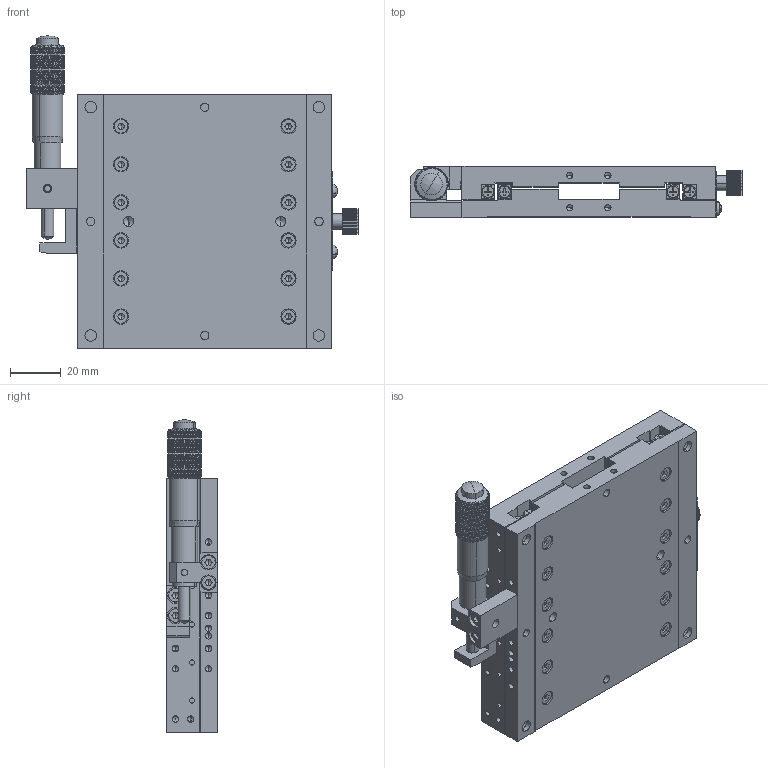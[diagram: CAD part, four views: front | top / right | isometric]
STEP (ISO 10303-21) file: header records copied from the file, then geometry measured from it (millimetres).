
FILE_DESCRIPTION (( 'STEP AP203' ), '1' );
FILE_NAME ('JCX-100L-25.STEP', '2013-12-24T04:33:55', ( 'MMO' ), ( '' ), 'SwSTEP 2.0', 'SolidWorks 2013', '' );
FILE_SCHEMA (( 'CONFIG_CONTROL_DESIGN' ));
Length unit declared in the file: millimetre
Products named in the file (11): JCX-60-18T-006; JCX-60-20T-004; JALB-73-RS; socket head cap screw_ks_KS 1003 - M3 x 5 x 5-N; JCX-100-01-01; round cross head screw_ks_KS 1023 RC - M3 x 5-N; JCX-100-02-01; JCX-100L-25; JV2-90-16; JCXY-40S-04-01; JCX-80-10-01
Assembly tree (41 placements, depth 2):
  JCX-100L-25
    JCX-100-01-01
    JCX-100-02-01
    JV2-90-16  x4
    JCXY-40S-04-01
    JCX-80-10-01
    JCX-60-18T-006
    JCX-60-20T-004
    JALB-73-RS
    socket head cap screw_ks_KS 1003 - M3 x 5 x 5-N  x28
    round cross head screw_ks_KS 1023 RC - M3 x 5-N  x2
Bounding box: 130.9 x 20 x 123.2 mm (x, y, z)
Volume: 179248.4 mm3; surface area: 80976.7 mm2
Topology: 41 solids, 41 shells, 3443 faces, 7940 edges, 4582 vertices
Faces by surface type: cylinder 1126, bspline 960, plane 879, cone 292, torus 176, sphere 10
Entity records: 84093 total; most frequent: CARTESIAN_POINT 42872, ORIENTED_EDGE 9988, DIRECTION 6132, EDGE_CURVE 4994, VERTEX_POINT 2934, AXIS2_PLACEMENT_3D 2504, EDGE_LOOP 2474, FACE_OUTER_BOUND 2196
